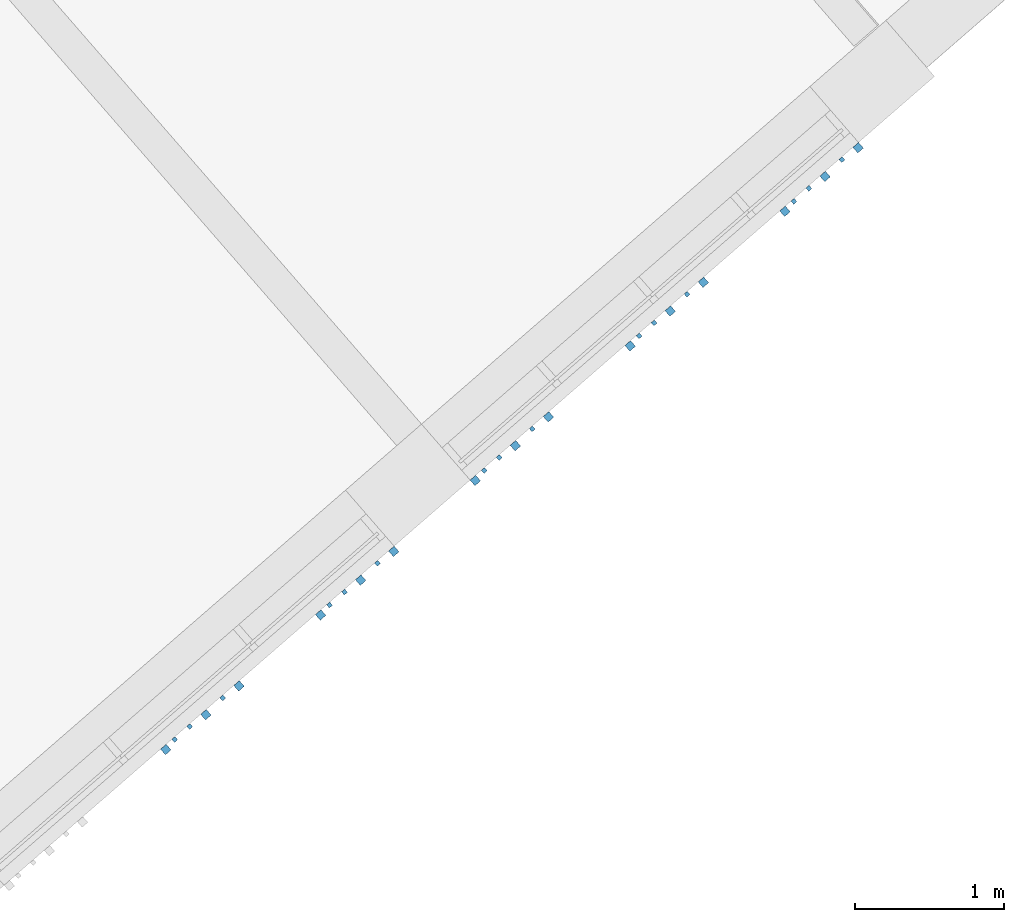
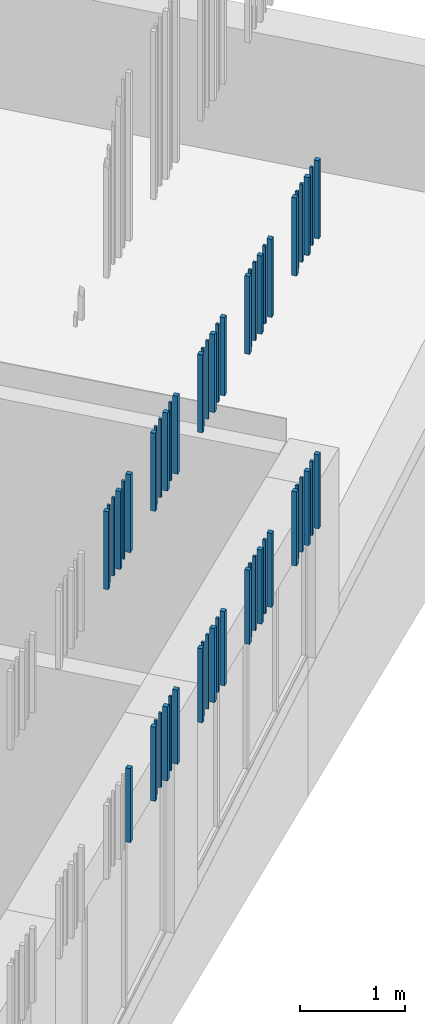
# One storey, part 98 of 124: 55 walls.
"""IFC2X3 building model written with IfcOpenShell, lengths in millimetres."""

from ifc_helpers import new_model, entity, si_unit, converted_unit, derived_unit, money_unit, direction, frame, origin_with_axes, place, context, subcontext, project, spatial, faceted_brep, material, type_object, element, save


model = new_model("IFC2X3")

# Units and contexts
model_context = context("Model", 3, precision=1e-05, world=origin_with_axes(), true_north=direction((0.0, 1.0)))
body_context = subcontext(model_context, "Body", "Model", "MODEL_VIEW")
ifc_project = project(units=[si_unit("LENGTHUNIT", "METRE", prefix="MILLI"), si_unit("AREAUNIT", "SQUARE_METRE"), si_unit("VOLUMEUNIT", "CUBIC_METRE"), converted_unit("PLANEANGLEUNIT", "DEGREE", entity("IfcPlaneAngleMeasure", 0.0174532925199), si_unit("PLANEANGLEUNIT", "RADIAN"), dimensions=[0, 0, 0, 0, 0, 0, 0]), si_unit("SOLIDANGLEUNIT", "STERADIAN"), money_unit("EUR"), converted_unit("TIMEUNIT", "Year", entity("IfcTimeMeasure", 31556926.0), si_unit("TIMEUNIT", "SECOND"), dimensions=[0, 0, 1, 0, 0, 0, 0]), si_unit("MASSUNIT", "GRAM", prefix="KILO"), si_unit("THERMODYNAMICTEMPERATUREUNIT", "DEGREE_CELSIUS"), si_unit("LUMINOUSINTENSITYUNIT", "LUMEN"), si_unit("ENERGYUNIT", "JOULE", prefix="MEGA"), derived_unit("THERMALCONDUCTANCEUNIT", [(si_unit("POWERUNIT", "WATT"), 1), (si_unit("LENGTHUNIT", "METRE"), -1), (si_unit("THERMODYNAMICTEMPERATUREUNIT", "KELVIN"), -1)]), derived_unit("SPECIFICHEATCAPACITYUNIT", [(si_unit("ENERGYUNIT", "JOULE"), 1), (si_unit("MASSUNIT", "GRAM", prefix="KILO"), -1), (si_unit("THERMODYNAMICTEMPERATUREUNIT", "KELVIN"), -1)]), derived_unit("MASSDENSITYUNIT", [(si_unit("MASSUNIT", "GRAM", prefix="KILO"), 1), (si_unit("VOLUMEUNIT", "CUBIC_METRE"), -1)])], contexts=[model_context])

# Site, building, storey
site_placement = place(None, origin_with_axes())
site = spatial("IfcSite", under=ifc_project, at=site_placement, Name="Site", CompositionType="ELEMENT")
building_placement = place(site_placement, origin_with_axes())
building = spatial("IfcBuilding", under=site, at=building_placement, Name="Building", CompositionType="ELEMENT")
storey_placement = place(building_placement, frame((0.0, 0.0, -1615.0), z_axis=(0.0, 0.0, 1.0), x_axis=(1.0, 0.0, 0.0)))
storey = spatial("IfcBuildingStorey", under=building, at=storey_placement, Name="0  korrus", CompositionType="ELEMENT", Elevation=-1615.0)

# Walls
ifc_material = material(Name="Site specified")
wall_type = type_object("IfcWallType", Name="Puitfassaadi ribistik", PredefinedType="NOTDEFINED")
wall_1_placement = place(storey_placement, frame((167977.072454, 90650.8579974, 2550.00001878), z_axis=(0.0, 0.0, 1.0), x_axis=(-0.754709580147, -0.656059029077, 0.0)))
element("IfcWall", 1, at=wall_1_placement, inside=storey, type_object=wall_type, material=ifc_material, Name="Site specified", context=body_context, shape_type="Brep", body=[
    faceted_brep([(25.0, 25.0, 860.0), (25.0, 25.0, 0.0), (-25.0, 25.0, 0.0), (-25.0, 25.0, 860.0), (25.0, -25.0, 860.0), (25.0, -25.0, 0.0), (-25.0, -25.0, 0.0), (-25.0, -25.0, 860.0)], [[[0, 1, 2, 3]], [[4, 5, 1, 0]], [[2, 1, 5, 6]], [[3, 2, 6, 7]], [[4, 0, 3, 7]], [[7, 6, 5, 4]]]),
])
wall_2_placement = place(storey_placement, frame((167977.072454, 90650.8579974, 5915.0), z_axis=(0.0, 0.0, 1.0), x_axis=(-0.754709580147, -0.656059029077, 0.0)))
element("IfcWall", 2, at=wall_2_placement, inside=storey, type_object=wall_type, material=ifc_material, Name="Site specified", context=body_context, shape_type="Brep", body=[
    faceted_brep([(25.0, 25.0, 906.0), (25.0, 25.0, 0.0), (-25.0, 25.0, 0.0), (-25.0, 25.0, 906.0), (25.0, -25.0, 906.0), (25.0, -25.0, 0.0), (-25.0, -25.0, 0.0), (-25.0, -25.0, 906.0)], [[[0, 1, 2, 3]], [[4, 5, 1, 0]], [[2, 1, 5, 6]], [[3, 2, 6, 7]], [[4, 0, 3, 7]], [[7, 6, 5, 4]]]),
])
for number, where, z_axis, x_axis, name in (
    (3, (167546.461873, 90291.1090731, 5915.0), (0.0, 0.0, 1.0), (-0.754709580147, -0.656059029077, 0.0), "Site specified"),
    (4, (167867.968132, 90570.5902, 5915.0), (0.0, 0.0, 1.0), (-0.754709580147, -0.656059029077, 0.0), "Site specified"),
    (5, (167646.838247, 90378.3649234, 5915.0), (0.0, 0.0, 1.0), (-0.754709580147, -0.656059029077, 0.0), "Site specified"),
):
    element("IfcWall", number, at=place(storey_placement, frame(where, z_axis=z_axis, x_axis=x_axis)), inside=storey, type_object=wall_type, material=ifc_material, Name=name, context=body_context, shape_type="Brep", body=[
        faceted_brep([(14.0, 14.0, 906.0), (14.0, 14.0, 0.0), (-14.0, 14.0, 0.0), (-14.0, 14.0, 906.0), (14.0, -14.0, 906.0), (14.0, -14.0, 0.0), (-14.0, -14.0, 0.0), (-14.0, -14.0, 906.0)], [[[0, 1, 2, 3]], [[4, 5, 1, 0]], [[2, 1, 5, 6]], [[3, 2, 6, 7]], [[4, 0, 3, 7]], [[7, 6, 5, 4]]]),
    ])
for number, where, z_axis, x_axis, name in (
    (6, (167486.506977, 90224.4159342, 5915.0), (0.0, 0.0, 1.0), (-0.754709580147, -0.656059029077, 0.0), "Site specified"),
    (7, (167755.187839, 90457.9766443, 5915.0), (0.0, 0.0, 1.0), (-0.754709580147, -0.656059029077, 0.0), "Site specified"),
):
    element("IfcWall", number, at=place(storey_placement, frame(where, z_axis=z_axis, x_axis=x_axis)), inside=storey, type_object=wall_type, material=ifc_material, Name=name, context=body_context, shape_type="Brep", body=[
        faceted_brep([(25.0, 25.0, 906.0), (25.0, 25.0, 0.0), (-25.0, 25.0, 0.0), (-25.0, 25.0, 906.0), (25.0, -25.0, 906.0), (25.0, -25.0, 0.0), (-25.0, -25.0, 0.0), (-25.0, -25.0, 906.0)], [[[0, 1, 2, 3]], [[4, 5, 1, 0]], [[2, 1, 5, 6]], [[3, 2, 6, 7]], [[4, 0, 3, 7]], [[7, 6, 5, 4]]]),
    ])
wall_3_placement = place(storey_placement, frame((169014.798127, 91552.9391624, 2550.00001878), z_axis=(0.0, 0.0, 1.0), x_axis=(-0.754709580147, -0.656059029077, 0.0)))
element("IfcWall", 8, at=wall_3_placement, inside=storey, type_object=wall_type, material=ifc_material, Name="Site specified", context=body_context, shape_type="Brep", body=[
    faceted_brep([(25.0, 25.0, 860.0), (25.0, 25.0, 0.0), (-25.0, 25.0, 0.0), (-25.0, 25.0, 860.0), (25.0, -25.0, 860.0), (25.0, -25.0, 0.0), (-25.0, -25.0, 0.0), (-25.0, -25.0, 860.0)], [[[0, 1, 2, 3]], [[4, 5, 1, 0]], [[2, 1, 5, 6]], [[3, 2, 6, 7]], [[4, 0, 3, 7]], [[7, 6, 5, 4]]]),
])
for number, where, z_axis, x_axis, name in (
    (9, (168905.693804, 91472.6713649, 2550.00001878), (0.0, 0.0, 1.0), (-0.754709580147, -0.656059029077, 0.0), "Site specified"),
    (10, (168584.187546, 91193.1902381, 2550.00001878), (0.0, 0.0, 1.0), (-0.754709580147, -0.656059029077, 0.0), "Site specified"),
    (11, (168684.563919, 91280.4460884, 2550.00001878), (0.0, 0.0, 1.0), (-0.754709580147, -0.656059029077, 0.0), "Site specified"),
):
    element("IfcWall", number, at=place(storey_placement, frame(where, z_axis=z_axis, x_axis=x_axis)), inside=storey, type_object=wall_type, material=ifc_material, Name=name, context=body_context, shape_type="Brep", body=[
        faceted_brep([(14.0, 14.0, 860.0), (14.0, 14.0, 0.0), (-14.0, 14.0, 0.0), (-14.0, 14.0, 860.0), (14.0, -14.0, 860.0), (14.0, -14.0, 0.0), (-14.0, -14.0, 0.0), (-14.0, -14.0, 860.0)], [[[0, 1, 2, 3]], [[4, 5, 1, 0]], [[2, 1, 5, 6]], [[3, 2, 6, 7]], [[4, 0, 3, 7]], [[7, 6, 5, 4]]]),
    ])
for number, where, z_axis, x_axis, name in (
    (12, (168524.23265, 91126.4970991, 2550.00001878), (0.0, 0.0, 1.0), (-0.754709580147, -0.656059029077, 0.0), "Site specified"),
    (13, (168792.913512, 91360.0578092, 2550.00001878), (0.0, 0.0, 1.0), (-0.754709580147, -0.656059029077, 0.0), "Site specified"),
):
    element("IfcWall", number, at=place(storey_placement, frame(where, z_axis=z_axis, x_axis=x_axis)), inside=storey, type_object=wall_type, material=ifc_material, Name=name, context=body_context, shape_type="Brep", body=[
        faceted_brep([(25.0, 25.0, 860.0), (25.0, 25.0, 0.0), (-25.0, 25.0, 0.0), (-25.0, 25.0, 860.0), (25.0, -25.0, 860.0), (25.0, -25.0, 0.0), (-25.0, -25.0, 0.0), (-25.0, -25.0, 860.0)], [[[0, 1, 2, 3]], [[4, 5, 1, 0]], [[2, 1, 5, 6]], [[3, 2, 6, 7]], [[4, 0, 3, 7]], [[7, 6, 5, 4]]]),
    ])
wall_4_placement = place(storey_placement, frame((169014.798127, 91552.9391624, 5915.0), z_axis=(0.0, 0.0, 1.0), x_axis=(-0.754709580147, -0.656059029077, 0.0)))
element("IfcWall", 14, at=wall_4_placement, inside=storey, type_object=wall_type, material=ifc_material, Name="Site specified", context=body_context, shape_type="Brep", body=[
    faceted_brep([(25.0, 25.0, 906.0), (25.0, 25.0, 0.0), (-25.0, 25.0, 0.0), (-25.0, 25.0, 906.0), (25.0, -25.0, 906.0), (25.0, -25.0, 0.0), (-25.0, -25.0, 0.0), (-25.0, -25.0, 906.0)], [[[0, 1, 2, 3]], [[4, 5, 1, 0]], [[2, 1, 5, 6]], [[3, 2, 6, 7]], [[4, 0, 3, 7]], [[7, 6, 5, 4]]]),
])
for number, where, z_axis, x_axis, name in (
    (15, (168905.693804, 91472.6713649, 5915.0), (0.0, 0.0, 1.0), (-0.754709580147, -0.656059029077, 0.0), "Site specified"),
    (16, (168584.187546, 91193.1902381, 5915.0), (0.0, 0.0, 1.0), (-0.754709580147, -0.656059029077, 0.0), "Site specified"),
    (17, (168684.563919, 91280.4460884, 5915.0), (0.0, 0.0, 1.0), (-0.754709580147, -0.656059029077, 0.0), "Site specified"),
):
    element("IfcWall", number, at=place(storey_placement, frame(where, z_axis=z_axis, x_axis=x_axis)), inside=storey, type_object=wall_type, material=ifc_material, Name=name, context=body_context, shape_type="Brep", body=[
        faceted_brep([(14.0, 14.0, 906.0), (14.0, 14.0, 0.0), (-14.0, 14.0, 0.0), (-14.0, 14.0, 906.0), (14.0, -14.0, 906.0), (14.0, -14.0, 0.0), (-14.0, -14.0, 0.0), (-14.0, -14.0, 906.0)], [[[0, 1, 2, 3]], [[4, 5, 1, 0]], [[2, 1, 5, 6]], [[3, 2, 6, 7]], [[4, 0, 3, 7]], [[7, 6, 5, 4]]]),
    ])
for number, where, z_axis, x_axis, name in (
    (18, (168792.913512, 91360.0578092, 5915.0), (0.0, 0.0, 1.0), (-0.754709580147, -0.656059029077, 0.0), "Site specified"),
    (19, (168524.23265, 91126.4970991, 5915.0), (0.0, 0.0, 1.0), (-0.754709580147, -0.656059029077, 0.0), "Site specified"),
):
    element("IfcWall", number, at=place(storey_placement, frame(where, z_axis=z_axis, x_axis=x_axis)), inside=storey, type_object=wall_type, material=ifc_material, Name=name, context=body_context, shape_type="Brep", body=[
        faceted_brep([(25.0, 25.0, 906.0), (25.0, 25.0, 0.0), (-25.0, 25.0, 0.0), (-25.0, 25.0, 906.0), (25.0, -25.0, 906.0), (25.0, -25.0, 0.0), (-25.0, -25.0, 0.0), (-25.0, -25.0, 906.0)], [[[0, 1, 2, 3]], [[4, 5, 1, 0]], [[2, 1, 5, 6]], [[3, 2, 6, 7]], [[4, 0, 3, 7]], [[7, 6, 5, 4]]]),
    ])
wall_5_placement = place(storey_placement, frame((170052.032124, 92454.5929203, 2550.00001878), z_axis=(0.0, 0.0, 1.0), x_axis=(-0.754709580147, -0.656059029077, 0.0)))
element("IfcWall", 20, at=wall_5_placement, inside=storey, type_object=wall_type, material=ifc_material, Name="Site specified", context=body_context, shape_type="Brep", body=[
    faceted_brep([(25.0, 25.0, 860.0), (25.0, 25.0, 0.0), (-25.0, 25.0, 0.0), (-25.0, 25.0, 860.0), (25.0, -25.0, 860.0), (25.0, -25.0, 0.0), (-25.0, -25.0, 0.0), (-25.0, -25.0, 860.0)], [[[0, 1, 2, 3]], [[4, 5, 1, 0]], [[2, 1, 5, 6]], [[3, 2, 6, 7]], [[4, 0, 3, 7]], [[7, 6, 5, 4]]]),
])
for number, where, z_axis, x_axis, name in (
    (21, (169942.927802, 92374.3251229, 2550.00001878), (0.0, 0.0, 1.0), (-0.754709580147, -0.656059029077, 0.0), "Site specified"),
    (22, (169621.421543, 92094.843996, 2550.00001878), (0.0, 0.0, 1.0), (-0.754709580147, -0.656059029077, 0.0), "Site specified"),
    (23, (169721.797917, 92182.0998463, 2550.00001878), (0.0, 0.0, 1.0), (-0.754709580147, -0.656059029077, 0.0), "Site specified"),
):
    element("IfcWall", number, at=place(storey_placement, frame(where, z_axis=z_axis, x_axis=x_axis)), inside=storey, type_object=wall_type, material=ifc_material, Name=name, context=body_context, shape_type="Brep", body=[
        faceted_brep([(14.0, 14.0, 860.0), (14.0, 14.0, 0.0), (-14.0, 14.0, 0.0), (-14.0, 14.0, 860.0), (14.0, -14.0, 860.0), (14.0, -14.0, 0.0), (-14.0, -14.0, 0.0), (-14.0, -14.0, 860.0)], [[[0, 1, 2, 3]], [[4, 5, 1, 0]], [[2, 1, 5, 6]], [[3, 2, 6, 7]], [[4, 0, 3, 7]], [[7, 6, 5, 4]]]),
    ])
for number, where, z_axis, x_axis, name in (
    (24, (169561.466647, 92028.1508571, 2550.00001878), (0.0, 0.0, 1.0), (-0.754709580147, -0.656059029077, 0.0), "Site specified"),
    (25, (169830.147509, 92261.7115672, 2550.00001878), (0.0, 0.0, 1.0), (-0.754709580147, -0.656059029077, 0.0), "Site specified"),
):
    element("IfcWall", number, at=place(storey_placement, frame(where, z_axis=z_axis, x_axis=x_axis)), inside=storey, type_object=wall_type, material=ifc_material, Name=name, context=body_context, shape_type="Brep", body=[
        faceted_brep([(25.0, 25.0, 860.0), (25.0, 25.0, 0.0), (-25.0, 25.0, 0.0), (-25.0, 25.0, 860.0), (25.0, -25.0, 860.0), (25.0, -25.0, 0.0), (-25.0, -25.0, 0.0), (-25.0, -25.0, 860.0)], [[[0, 1, 2, 3]], [[4, 5, 1, 0]], [[2, 1, 5, 6]], [[3, 2, 6, 7]], [[4, 0, 3, 7]], [[7, 6, 5, 4]]]),
    ])
wall_6_placement = place(storey_placement, frame((170052.032124, 92454.5929203, 5915.0), z_axis=(0.0, 0.0, 1.0), x_axis=(-0.754709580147, -0.656059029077, 0.0)))
element("IfcWall", 26, at=wall_6_placement, inside=storey, type_object=wall_type, material=ifc_material, Name="Site specified", context=body_context, shape_type="Brep", body=[
    faceted_brep([(25.0, 25.0, 906.0), (25.0, 25.0, 0.0), (-25.0, 25.0, 0.0), (-25.0, 25.0, 906.0), (25.0, -25.0, 906.0), (25.0, -25.0, 0.0), (-25.0, -25.0, 0.0), (-25.0, -25.0, 906.0)], [[[0, 1, 2, 3]], [[4, 5, 1, 0]], [[2, 1, 5, 6]], [[3, 2, 6, 7]], [[4, 0, 3, 7]], [[7, 6, 5, 4]]]),
])
for number, where, z_axis, x_axis, name in (
    (27, (169942.927802, 92374.3251229, 5915.0), (0.0, 0.0, 1.0), (-0.754709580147, -0.656059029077, 0.0), "Site specified"),
    (28, (169621.421543, 92094.843996, 5915.0), (0.0, 0.0, 1.0), (-0.754709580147, -0.656059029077, 0.0), "Site specified"),
    (29, (169721.797917, 92182.0998463, 5915.0), (0.0, 0.0, 1.0), (-0.754709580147, -0.656059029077, 0.0), "Site specified"),
):
    element("IfcWall", number, at=place(storey_placement, frame(where, z_axis=z_axis, x_axis=x_axis)), inside=storey, type_object=wall_type, material=ifc_material, Name=name, context=body_context, shape_type="Brep", body=[
        faceted_brep([(14.0, 14.0, 906.0), (14.0, 14.0, 0.0), (-14.0, 14.0, 0.0), (-14.0, 14.0, 906.0), (14.0, -14.0, 906.0), (14.0, -14.0, 0.0), (-14.0, -14.0, 0.0), (-14.0, -14.0, 906.0)], [[[0, 1, 2, 3]], [[4, 5, 1, 0]], [[2, 1, 5, 6]], [[3, 2, 6, 7]], [[4, 0, 3, 7]], [[7, 6, 5, 4]]]),
    ])
for number, where, z_axis, x_axis, name in (
    (30, (169561.466647, 92028.1508571, 5915.0), (0.0, 0.0, 1.0), (-0.754709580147, -0.656059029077, 0.0), "Site specified"),
    (31, (169830.147509, 92261.7115672, 5915.0), (0.0, 0.0, 1.0), (-0.754709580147, -0.656059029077, 0.0), "Site specified"),
):
    element("IfcWall", number, at=place(storey_placement, frame(where, z_axis=z_axis, x_axis=x_axis)), inside=storey, type_object=wall_type, material=ifc_material, Name=name, context=body_context, shape_type="Brep", body=[
        faceted_brep([(25.0, 25.0, 906.0), (25.0, 25.0, 0.0), (-25.0, 25.0, 0.0), (-25.0, 25.0, 906.0), (25.0, -25.0, 906.0), (25.0, -25.0, 0.0), (-25.0, -25.0, 0.0), (-25.0, -25.0, 906.0)], [[[0, 1, 2, 3]], [[4, 5, 1, 0]], [[2, 1, 5, 6]], [[3, 2, 6, 7]], [[4, 0, 3, 7]], [[7, 6, 5, 4]]]),
    ])
wall_7_placement = place(storey_placement, frame((171090.249472, 93357.1014923, 2550.00001878), z_axis=(0.0, 0.0, 1.0), x_axis=(-0.754709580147, -0.656059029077, 0.0)))
element("IfcWall", 32, at=wall_7_placement, inside=storey, type_object=wall_type, material=ifc_material, Name="Site specified", context=body_context, shape_type="Brep", body=[
    faceted_brep([(25.0, 25.0, 860.0), (25.0, 25.0, 0.0), (-25.0, 25.0, 0.0), (-25.0, 25.0, 860.0), (25.0, -25.0, 860.0), (25.0, -25.0, 0.0), (-25.0, -25.0, 0.0), (-25.0, -25.0, 860.0)], [[[0, 1, 2, 3]], [[4, 5, 1, 0]], [[2, 1, 5, 6]], [[3, 2, 6, 7]], [[4, 0, 3, 7]], [[7, 6, 5, 4]]]),
])
for number, where, z_axis, x_axis, name in (
    (33, (170981.14515, 93276.8336948, 2550.00001878), (0.0, 0.0, 1.0), (-0.754709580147, -0.656059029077, 0.0), "Site specified"),
    (34, (170659.638891, 92997.352568, 2550.00001878), (0.0, 0.0, 1.0), (-0.754709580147, -0.656059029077, 0.0), "Site specified"),
    (35, (170760.015265, 93084.6084183, 2550.00001878), (0.0, 0.0, 1.0), (-0.754709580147, -0.656059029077, 0.0), "Site specified"),
):
    element("IfcWall", number, at=place(storey_placement, frame(where, z_axis=z_axis, x_axis=x_axis)), inside=storey, type_object=wall_type, material=ifc_material, Name=name, context=body_context, shape_type="Brep", body=[
        faceted_brep([(14.0, 14.0, 860.0), (14.0, 14.0, 0.0), (-14.0, 14.0, 0.0), (-14.0, 14.0, 860.0), (14.0, -14.0, 860.0), (14.0, -14.0, 0.0), (-14.0, -14.0, 0.0), (-14.0, -14.0, 860.0)], [[[0, 1, 2, 3]], [[4, 5, 1, 0]], [[2, 1, 5, 6]], [[3, 2, 6, 7]], [[4, 0, 3, 7]], [[7, 6, 5, 4]]]),
    ])
wall_8_placement = place(storey_placement, frame((170599.683995, 92930.659429, 2550.00001878), z_axis=(0.0, 0.0, 1.0), x_axis=(-0.754709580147, -0.656059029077, 0.0)))
element("IfcWall", 36, at=wall_8_placement, inside=storey, type_object=wall_type, material=ifc_material, Name="Site specified", context=body_context, shape_type="Brep", body=[
    faceted_brep([(25.0, 25.0, 860.0), (25.0, 25.0, 0.0), (-25.0, 25.0, 0.0), (-25.0, 25.0, 860.0), (25.0, -25.0, 860.0), (25.0, -25.0, 0.0), (-25.0, -25.0, 0.0), (-25.0, -25.0, 860.0)], [[[0, 1, 2, 3]], [[4, 5, 1, 0]], [[2, 1, 5, 6]], [[3, 2, 6, 7]], [[4, 0, 3, 7]], [[7, 6, 5, 4]]]),
])
wall_9_placement = place(storey_placement, frame((170868.364857, 93164.2201392, 2550.00001878), z_axis=(0.0, 0.0, 1.0), x_axis=(-0.754709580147, -0.656059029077, 0.0)))
element("IfcWall", 37, at=wall_9_placement, inside=storey, type_object=wall_type, material=ifc_material, Name="Site specified", context=body_context, shape_type="Brep", body=[
    faceted_brep([(25.0, 25.0, 860.0), (25.0, 25.0, 0.0), (-25.0, 25.0, 0.0), (-25.0, 25.0, 860.0), (25.0, -25.0, 860.0), (25.0, -25.0, 0.0), (-24.9999999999, -25.0, 0.0), (-24.9999999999, -25.0, 860.0)], [[[0, 1, 2, 3]], [[4, 5, 1, 0]], [[2, 1, 5, 6]], [[3, 2, 6, 7]], [[4, 0, 3, 7]], [[7, 6, 5, 4]]]),
])
wall_10_placement = place(storey_placement, frame((171090.249472, 93357.1014923, 5915.0), z_axis=(0.0, 0.0, 1.0), x_axis=(-0.754709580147, -0.656059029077, 0.0)))
element("IfcWall", 38, at=wall_10_placement, inside=storey, type_object=wall_type, material=ifc_material, Name="Site specified", context=body_context, shape_type="Brep", body=[
    faceted_brep([(25.0, 25.0, 906.0), (25.0, 25.0, 0.0), (-25.0, 25.0, 0.0), (-25.0, 25.0, 906.0), (25.0, -25.0, 906.0), (25.0, -25.0, 0.0), (-25.0, -25.0, 0.0), (-25.0, -25.0, 906.0)], [[[0, 1, 2, 3]], [[4, 5, 1, 0]], [[2, 1, 5, 6]], [[3, 2, 6, 7]], [[4, 0, 3, 7]], [[7, 6, 5, 4]]]),
])
for number, where, z_axis, x_axis, name in (
    (39, (170981.14515, 93276.8336948, 5915.0), (0.0, 0.0, 1.0), (-0.754709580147, -0.656059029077, 0.0), "Site specified"),
    (40, (170659.638891, 92997.352568, 5915.0), (0.0, 0.0, 1.0), (-0.754709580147, -0.656059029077, 0.0), "Site specified"),
    (41, (170760.015265, 93084.6084183, 5915.0), (0.0, 0.0, 1.0), (-0.754709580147, -0.656059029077, 0.0), "Site specified"),
):
    element("IfcWall", number, at=place(storey_placement, frame(where, z_axis=z_axis, x_axis=x_axis)), inside=storey, type_object=wall_type, material=ifc_material, Name=name, context=body_context, shape_type="Brep", body=[
        faceted_brep([(14.0, 14.0, 906.0), (14.0, 14.0, 0.0), (-14.0, 14.0, 0.0), (-14.0, 14.0, 906.0), (14.0, -14.0, 906.0), (14.0, -14.0, 0.0), (-14.0, -14.0, 0.0), (-14.0, -14.0, 906.0)], [[[0, 1, 2, 3]], [[4, 5, 1, 0]], [[2, 1, 5, 6]], [[3, 2, 6, 7]], [[4, 0, 3, 7]], [[7, 6, 5, 4]]]),
    ])
wall_11_placement = place(storey_placement, frame((170599.683995, 92930.659429, 5915.0), z_axis=(0.0, 0.0, 1.0), x_axis=(-0.754709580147, -0.656059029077, 0.0)))
element("IfcWall", 42, at=wall_11_placement, inside=storey, type_object=wall_type, material=ifc_material, Name="Site specified", context=body_context, shape_type="Brep", body=[
    faceted_brep([(25.0, 25.0, 906.0), (25.0, 25.0, 0.0), (-25.0, 25.0, 0.0), (-25.0, 25.0, 906.0), (25.0, -25.0, 906.0), (25.0, -25.0, 0.0), (-25.0, -25.0, 0.0), (-25.0, -25.0, 906.0)], [[[0, 1, 2, 3]], [[4, 5, 1, 0]], [[2, 1, 5, 6]], [[3, 2, 6, 7]], [[4, 0, 3, 7]], [[7, 6, 5, 4]]]),
])
wall_12_placement = place(storey_placement, frame((170868.364857, 93164.2201392, 5915.0), z_axis=(0.0, 0.0, 1.0), x_axis=(-0.754709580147, -0.656059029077, 0.0)))
element("IfcWall", 43, at=wall_12_placement, inside=storey, type_object=wall_type, material=ifc_material, Name="Site specified", context=body_context, shape_type="Brep", body=[
    faceted_brep([(25.0, 25.0, 906.0), (25.0, 25.0, 0.0), (-25.0, 25.0, 0.0), (-25.0, 25.0, 906.0), (25.0, -25.0, 906.0), (25.0, -25.0, 0.0), (-24.9999999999, -25.0, 0.0), (-24.9999999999, -25.0, 906.0)], [[[0, 1, 2, 3]], [[4, 5, 1, 0]], [[2, 1, 5, 6]], [[3, 2, 6, 7]], [[4, 0, 3, 7]], [[7, 6, 5, 4]]]),
])
wall_13_placement = place(storey_placement, frame((172127.975145, 94259.1826572, 2550.00001878), z_axis=(0.0, 0.0, 1.0), x_axis=(-0.754709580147, -0.656059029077, 0.0)))
element("IfcWall", 44, at=wall_13_placement, inside=storey, type_object=wall_type, material=ifc_material, Name="Site specified", context=body_context, shape_type="Brep", body=[
    faceted_brep([(25.0, 25.0, 860.0), (25.0, 25.0, 0.0), (-25.0, 25.0, 0.0), (-25.0, 25.0, 860.0), (25.0, -25.0, 860.0), (25.0, -25.0, 0.0), (-25.0, -25.0, 0.0), (-25.0, -25.0, 860.0)], [[[0, 1, 2, 3]], [[4, 5, 1, 0]], [[2, 1, 5, 6]], [[3, 2, 6, 7]], [[4, 0, 3, 7]], [[7, 6, 5, 4]]]),
])
for number, where, z_axis, x_axis, name in (
    (45, (172018.870823, 94178.9148598, 2550.00001878), (0.0, 0.0, 1.0), (-0.754709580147, -0.656059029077, 0.0), "Site specified"),
    (46, (171697.364564, 93899.4337329, 2550.00001878), (0.0, 0.0, 1.0), (-0.754709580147, -0.656059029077, 0.0), "Site specified"),
    (47, (171797.740938, 93986.6895832, 2550.00001878), (0.0, 0.0, 1.0), (-0.754709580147, -0.656059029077, 0.0), "Site specified"),
):
    element("IfcWall", number, at=place(storey_placement, frame(where, z_axis=z_axis, x_axis=x_axis)), inside=storey, type_object=wall_type, material=ifc_material, Name=name, context=body_context, shape_type="Brep", body=[
        faceted_brep([(14.0, 14.0, 860.0), (14.0, 14.0, 0.0), (-14.0, 14.0, 0.0), (-14.0, 14.0, 860.0), (14.0, -14.0, 860.0), (14.0, -14.0, 0.0), (-14.0, -14.0, 0.0), (-14.0, -14.0, 860.0)], [[[0, 1, 2, 3]], [[4, 5, 1, 0]], [[2, 1, 5, 6]], [[3, 2, 6, 7]], [[4, 0, 3, 7]], [[7, 6, 5, 4]]]),
    ])
for number, where, z_axis, x_axis, name in (
    (48, (171637.409668, 93832.7405939, 2550.00001878), (0.0, 0.0, 1.0), (-0.754709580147, -0.656059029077, 0.0), "Site specified"),
    (49, (171906.09053, 94066.3013041, 2550.00001878), (0.0, 0.0, 1.0), (-0.754709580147, -0.656059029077, 0.0), "Site specified"),
):
    element("IfcWall", number, at=place(storey_placement, frame(where, z_axis=z_axis, x_axis=x_axis)), inside=storey, type_object=wall_type, material=ifc_material, Name=name, context=body_context, shape_type="Brep", body=[
        faceted_brep([(25.0, 25.0, 860.0), (25.0, 25.0, 0.0), (-25.0, 25.0, 0.0), (-25.0, 25.0, 860.0), (25.0, -25.0, 860.0), (25.0, -25.0, 0.0), (-25.0, -25.0, 0.0), (-25.0, -25.0, 860.0)], [[[0, 1, 2, 3]], [[4, 5, 1, 0]], [[2, 1, 5, 6]], [[3, 2, 6, 7]], [[4, 0, 3, 7]], [[7, 6, 5, 4]]]),
    ])
wall_14_placement = place(storey_placement, frame((172127.975145, 94259.1826572, 5915.0), z_axis=(0.0, 0.0, 1.0), x_axis=(-0.754709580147, -0.656059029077, 0.0)))
element("IfcWall", 50, at=wall_14_placement, inside=storey, type_object=wall_type, material=ifc_material, Name="Site specified", context=body_context, shape_type="Brep", body=[
    faceted_brep([(25.0, 25.0, 906.0), (25.0, 25.0, 0.0), (-25.0, 25.0, 0.0), (-25.0, 25.0, 906.0), (25.0, -25.0, 906.0), (25.0, -25.0, 0.0), (-25.0, -25.0, 0.0), (-25.0, -25.0, 906.0)], [[[0, 1, 2, 3]], [[4, 5, 1, 0]], [[2, 1, 5, 6]], [[3, 2, 6, 7]], [[4, 0, 3, 7]], [[7, 6, 5, 4]]]),
])
for number, where, z_axis, x_axis, name in (
    (51, (172018.870823, 94178.9148598, 5915.0), (0.0, 0.0, 1.0), (-0.754709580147, -0.656059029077, 0.0), "Site specified"),
    (52, (171697.364564, 93899.4337329, 5915.0), (0.0, 0.0, 1.0), (-0.754709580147, -0.656059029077, 0.0), "Site specified"),
    (53, (171797.740938, 93986.6895832, 5915.0), (0.0, 0.0, 1.0), (-0.754709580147, -0.656059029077, 0.0), "Site specified"),
):
    element("IfcWall", number, at=place(storey_placement, frame(where, z_axis=z_axis, x_axis=x_axis)), inside=storey, type_object=wall_type, material=ifc_material, Name=name, context=body_context, shape_type="Brep", body=[
        faceted_brep([(14.0, 14.0, 906.0), (14.0, 14.0, 0.0), (-14.0, 14.0, 0.0), (-14.0, 14.0, 906.0), (14.0, -14.0, 906.0), (14.0, -14.0, 0.0), (-14.0, -14.0, 0.0), (-14.0, -14.0, 906.0)], [[[0, 1, 2, 3]], [[4, 5, 1, 0]], [[2, 1, 5, 6]], [[3, 2, 6, 7]], [[4, 0, 3, 7]], [[7, 6, 5, 4]]]),
    ])
for number, where, z_axis, x_axis, name in (
    (54, (171637.409668, 93832.7405939, 5915.0), (0.0, 0.0, 1.0), (-0.754709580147, -0.656059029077, 0.0), "Site specified"),
    (55, (171906.09053, 94066.3013041, 5915.0), (0.0, 0.0, 1.0), (-0.754709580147, -0.656059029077, 0.0), "Site specified"),
):
    element("IfcWall", number, at=place(storey_placement, frame(where, z_axis=z_axis, x_axis=x_axis)), inside=storey, type_object=wall_type, material=ifc_material, Name=name, context=body_context, shape_type="Brep", body=[
        faceted_brep([(25.0, 25.0, 906.0), (25.0, 25.0, 0.0), (-25.0, 25.0, 0.0), (-25.0, 25.0, 906.0), (25.0, -25.0, 906.0), (25.0, -25.0, 0.0), (-25.0, -25.0, 0.0), (-25.0, -25.0, 906.0)], [[[0, 1, 2, 3]], [[4, 5, 1, 0]], [[2, 1, 5, 6]], [[3, 2, 6, 7]], [[4, 0, 3, 7]], [[7, 6, 5, 4]]]),
    ])

save(model, "model.ifc")
